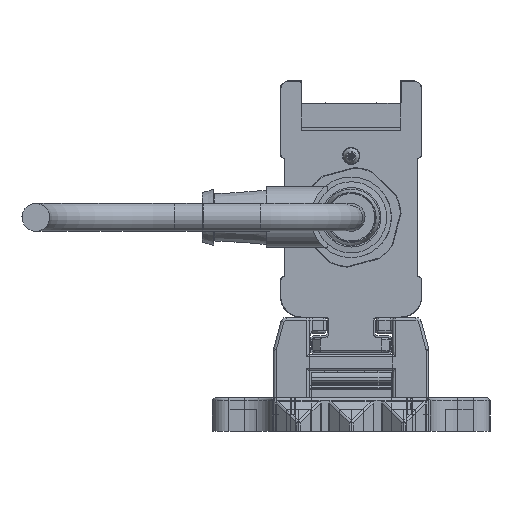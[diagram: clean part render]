
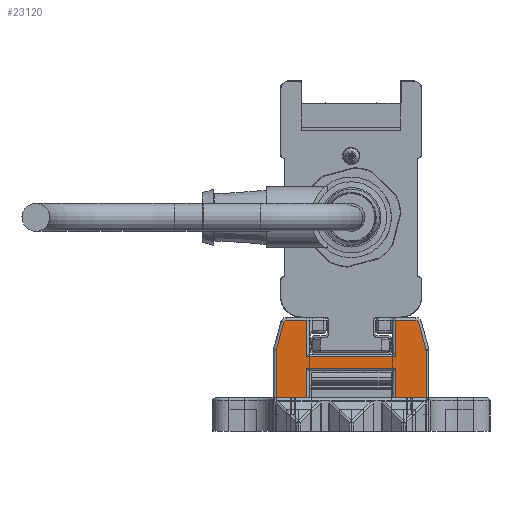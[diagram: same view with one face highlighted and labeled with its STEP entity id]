
A CAD part, left-side view. The second image highlights one B-rep face of the part: STEP entity #23120.
In plain terms, the highlighted planar face has unit normal (-1, 0, 0).
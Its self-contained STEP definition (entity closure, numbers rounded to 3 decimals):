
#23120=ADVANCED_FACE('', (#23130), #23140, .T.);
#117610=AXIS2_PLACEMENT_3D('Ax2Pl3d', #117620, #117630, #117640);
#117850=AXIS2_PLACEMENT_3D('Ax2Pl3d', #117860, #117870, #117880);
#122730=AXIS2_PLACEMENT_3D('Ax2Pl3d', #122740, #122750, #122760);
#127810=AXIS2_PLACEMENT_3D('Ax2Pl3d', #127820, #127830, #127840);
#137490=AXIS2_PLACEMENT_3D('Ax2Pl3d', #137500, #137510, #137520);
#453240=CARTESIAN_POINT('', (-747.669,-2486.345,
331.37));
#117620=CARTESIAN_POINT('HicPkt', (-747.669,-2485.379,
331.111));
#453250=CARTESIAN_POINT('', (-747.669,-2486.379,
331.111));
#453260=CARTESIAN_POINT('', (-747.669,-2485.037,336.255))
;
#453280=CARTESIAN_POINT('', (-747.669,-2485.037,336.255))
;
#453310=CARTESIAN_POINT('', (-747.669,-2484.554,
336.625));
#117860=CARTESIAN_POINT('HicPkt', (-747.669,-2484.554,
336.125));
#453530=CARTESIAN_POINT('', (-747.669,-2486.379,
322.625));
#453540=CARTESIAN_POINT('', (-747.669,-2480.881,
322.625));
#453550=CARTESIAN_POINT('', (-747.669,-2480.881,
322.625));
#453630=CARTESIAN_POINT('', (-747.669,-2464.881,
322.625));
#453640=CARTESIAN_POINT('', (-747.669,-2459.383,
322.625));
#453650=CARTESIAN_POINT('', (-747.669,-2459.383,
322.625));
#122740=CARTESIAN_POINT('HicPkt', (-747.669,-2461.209,
336.125));
#456120=CARTESIAN_POINT('', (-747.669,-2460.726,
336.255));
#456130=CARTESIAN_POINT('', (-747.669,-2461.209,
336.625));
#456140=CARTESIAN_POINT('', (-747.669,-2480.881,
330.025));
#456150=CARTESIAN_POINT('', (-747.669,-2464.881,330.025)
);
#456160=CARTESIAN_POINT('', (-747.669,-2480.881,
330.025));
#456320=CARTESIAN_POINT('', (-747.669,-2480.881,
328.005));
#456330=CARTESIAN_POINT('', (-747.669,-2464.881,
328.005));
#456340=CARTESIAN_POINT('', (-747.669,-2464.881,
328.005));
#456350=CARTESIAN_POINT('', (-747.669,-2480.881,
328.005));
#456370=CARTESIAN_POINT('', (-747.669,-2464.881,
322.625));
#456380=CARTESIAN_POINT('', (-747.669,-2464.881,330.025)
);
#456390=CARTESIAN_POINT('', (-747.669,-2464.881,
336.625));
#457240=CARTESIAN_POINT('', (-747.669,-2464.881,
336.625));
#457250=CARTESIAN_POINT('', (-747.669,-2460.726,
336.255));
#457260=CARTESIAN_POINT('', (-747.669,-2459.417,
331.37));
#457450=CARTESIAN_POINT('', (-747.669,-2459.383,
331.111));
#457460=CARTESIAN_POINT('', (-747.669,-2459.383,
331.111));
#127820=CARTESIAN_POINT('HicPkt', (-747.669,-2460.383,
331.111));
#458270=CARTESIAN_POINT('', (-747.669,-2486.379,
331.111));
#137500=CARTESIAN_POINT('HicPkt', (-747.669,-2484.554,
336.625));
#460070=CARTESIAN_POINT('', (-747.669,-2480.881,
336.625));
#460080=CARTESIAN_POINT('', (-747.669,-2480.881,
336.625));
#460090=CARTESIAN_POINT('', (-747.669,-2480.881,
336.625));
#522140=CIRCLE('Circle', #117610, 1.);
#522180=CIRCLE('Circle', #117850, 0.5);
#522760=CIRCLE('Circle', #122730, 0.5);
#523290=CIRCLE('Circle', #127810, 1.);
#117630=DIRECTION('Axis', (-1.,0.,
0.));
#117640=DIRECTION('RefDirection', (0.,
0.,-1.));
#730180=DIRECTION('', (0.,0.259,
0.966));
#117870=DIRECTION('Axis', (-1.,0.,
0.));
#117880=DIRECTION('RefDirection', (0.,
0.,-1.));
#730290=DIRECTION('', (0.,1.,0.));
#730330=DIRECTION('', (0.,1.,0.));
#122750=DIRECTION('Axis', (1.,0.,
0.));
#122760=DIRECTION('RefDirection', (0.,
0.,-1.));
#731520=DIRECTION('', (0.,-1.,0.));
#731620=DIRECTION('', (0.,1.,0.));
#731630=DIRECTION('', (0.,0.,1.));
#731650=DIRECTION('', (0.,0.,-1.));
#731660=DIRECTION('', (0.,0.,-1.));
#732090=DIRECTION('', (0.,-1.,0.));
#732100=DIRECTION('', (0.,-0.259,0.966));
#732190=DIRECTION('', (0.,0.,1.));
#127830=DIRECTION('Axis', (1.,0.,
0.));
#127840=DIRECTION('RefDirection', (0.,
0.,-1.));
#732560=DIRECTION('', (0.,0.,1.));
#137510=DIRECTION('Axis', (-1.,0.,
0.));
#137520=DIRECTION('RefDirection', (0.,
0.,-1.));
#733400=DIRECTION('', (0.,1.,0.));
#733410=DIRECTION('', (0.,0.,1.));
#785930=EDGE_CURVE('', #785940, #785920, #522140, .T.);
#785990=EDGE_CURVE('', #785920, #785970, #786000, .T.);
#786060=EDGE_CURVE('', #785970, #786050, #522180, .T.);
#786510=EDGE_CURVE('', #786500, #786520, #786530, .T.);
#786670=EDGE_CURVE('', #786660, #786680, #786690, .T.);
#791030=EDGE_CURVE('', #791040, #791050, #522760, .T.);
#791080=EDGE_CURVE('', #791090, #791100, #791110, .T.);
#791450=EDGE_CURVE('', #791430, #791460, #791470, .T.);
#791500=EDGE_CURVE('', #786520, #791430, #791510, .T.);
#791540=EDGE_CURVE('', #791460, #786660, #791550, .T.);
#791560=EDGE_CURVE('', #791570, #791090, #791580, .T.);
#793400=EDGE_CURVE('', #791050, #791570, #793410, .T.);
#793470=EDGE_CURVE('', #793480, #791040, #793490, .T.);
#793910=EDGE_CURVE('', #786680, #793920, #793930, .T.);
#793950=EDGE_CURVE('', #793920, #793480, #523290, .T.);
#795660=EDGE_CURVE('', #786500, #785940, #795670, .T.);
#799470=EDGE_CURVE('', #786050, #799480, #799490, .T.);
#799500=EDGE_CURVE('', #791100, #799480, #799510, .T.);
#950330=EDGE_LOOP('Edge_loop', (#950340,#950350,#950360,#950370,#950380,
#950390,#950400,#950410,#950420,#950430,#950440,#950450,#950460,#950470,
#950480,#950490,#950500,#950510));
#23130=FACE_OUTER_BOUND('Face_outer_bound', #950330, .T.);
#786000=LINE('Line', #453280, #1078570);
#786530=LINE('Line', #453540, #1078680);
#786690=LINE('Line', #453640, #1078720);
#791110=LINE('Line', #456140, #1079910);
#791470=LINE('Line', #456330, #1080010);
#791510=LINE('Line', #456350, #1080020);
#791550=LINE('Line', #456370, #1080040);
#791580=LINE('Line', #456380, #1080050);
#793410=LINE('Line', #457240, #1080480);
#793490=LINE('Line', #457250, #1080490);
#793930=LINE('Line', #457450, #1080580);
#795670=LINE('Line', #458270, #1080950);
#799490=LINE('Line', #460070, #1081790);
#799510=LINE('Line', #460090, #1081800);
#950340=ORIENTED_EDGE('', *, *, #799470, .T.);
#950350=ORIENTED_EDGE('', *, *, #799500, .F.);
#950360=ORIENTED_EDGE('', *, *, #791080, .F.);
#950370=ORIENTED_EDGE('', *, *, #791560, .F.);
#950380=ORIENTED_EDGE('', *, *, #793400, .F.);
#950390=ORIENTED_EDGE('', *, *, #791030, .F.);
#950400=ORIENTED_EDGE('', *, *, #793470, .F.);
#950410=ORIENTED_EDGE('', *, *, #793950, .F.);
#950420=ORIENTED_EDGE('', *, *, #793910, .F.);
#950430=ORIENTED_EDGE('', *, *, #786670, .F.);
#950440=ORIENTED_EDGE('', *, *, #791540, .F.);
#950450=ORIENTED_EDGE('', *, *, #791450, .F.);
#950460=ORIENTED_EDGE('', *, *, #791500, .F.);
#950470=ORIENTED_EDGE('', *, *, #786510, .F.);
#950480=ORIENTED_EDGE('', *, *, #795660, .T.);
#950490=ORIENTED_EDGE('', *, *, #785930, .T.);
#950500=ORIENTED_EDGE('', *, *, #785990, .T.);
#950510=ORIENTED_EDGE('', *, *, #786060, .T.);
#23140=PLANE('Plane', #137490);
#1078570=VECTOR('', #730180, 5.057);
#1078680=VECTOR('', #730290, 5.498);
#1078720=VECTOR('', #730330, 5.498);
#1079910=VECTOR('', #731520, 16.);
#1080010=VECTOR('', #731620, 16.);
#1080020=VECTOR('', #731630, 5.38);
#1080040=VECTOR('', #731650, 5.38);
#1080050=VECTOR('', #731660, 6.6);
#1080480=VECTOR('', #732090, 3.672);
#1080490=VECTOR('', #732100, 5.057);
#1080580=VECTOR('', #732190, 8.486);
#1080950=VECTOR('', #732560, 8.486);
#1081790=VECTOR('', #733400, 3.672);
#1081800=VECTOR('', #733410, 6.6);
#785920=VERTEX_POINT('', #453240);
#785940=VERTEX_POINT('', #453250);
#785970=VERTEX_POINT('', #453260);
#786050=VERTEX_POINT('', #453310);
#786500=VERTEX_POINT('', #453530);
#786520=VERTEX_POINT('', #453550);
#786660=VERTEX_POINT('', #453630);
#786680=VERTEX_POINT('', #453650);
#791040=VERTEX_POINT('', #456120);
#791050=VERTEX_POINT('', #456130);
#791090=VERTEX_POINT('', #456150);
#791100=VERTEX_POINT('', #456160);
#791430=VERTEX_POINT('', #456320);
#791460=VERTEX_POINT('', #456340);
#791570=VERTEX_POINT('', #456390);
#793480=VERTEX_POINT('', #457260);
#793920=VERTEX_POINT('', #457460);
#799480=VERTEX_POINT('', #460080);
